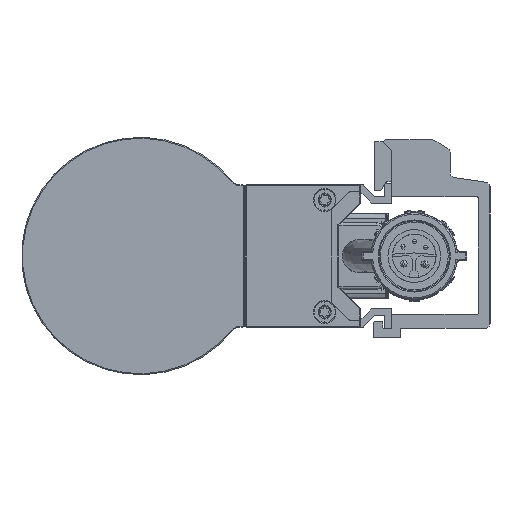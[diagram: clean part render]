
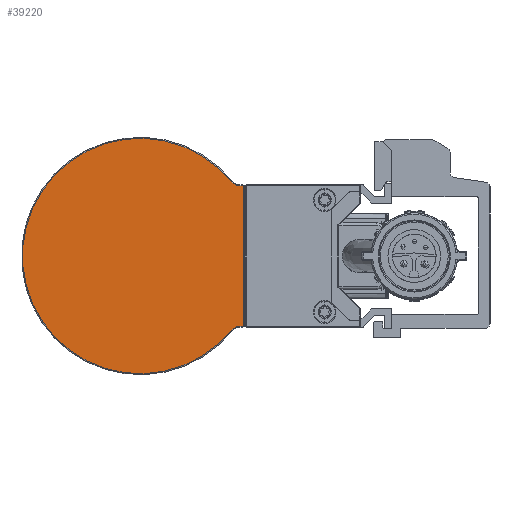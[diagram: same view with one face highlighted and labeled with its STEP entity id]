
A CAD part, left-side view. The second image highlights one B-rep face of the part: STEP entity #39220.
In plain terms, the highlighted planar face has unit normal (-1, 0, 0).
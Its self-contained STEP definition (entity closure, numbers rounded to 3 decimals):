
#111 = DIRECTION ( 'NONE',  ( 0., 0., -1. ) ) ;
#1398 = DIRECTION ( 'NONE',  ( -1., 0., 0. ) ) ;
#1769 = CARTESIAN_POINT ( 'NONE',  ( -750., 31.5, 14.8 ) ) ;
#2812 = CARTESIAN_POINT ( 'NONE',  ( -750., 32.025, -17. ) ) ;
#2957 = CARTESIAN_POINT ( 'NONE',  ( -750., 33.734, -15.615 ) ) ;
#4851 = DIRECTION ( 'NONE',  ( -1., 0., 0. ) ) ;
#5068 = EDGE_CURVE ( 'NONE', #25568, #34644, #31974, .T. ) ;
#7040 = DIRECTION ( 'NONE',  ( -1., 0., 0. ) ) ;
#8035 = DIRECTION ( 'NONE',  ( 0., 0., -1. ) ) ;
#8541 = EDGE_CURVE ( 'NONE', #43793, #35649, #58381, .T. ) ;
#8965 = EDGE_CURVE ( 'NONE', #47198, #39544, #31147, .T. ) ;
#9900 = LINE ( 'NONE', #40134, #24181 ) ;
#11091 = EDGE_CURVE ( 'NONE', #52333, #25568, #56469, .T. ) ;
#11676 = ORIENTED_EDGE ( 'NONE', *, *, #57275, .T. ) ;
#16390 = ORIENTED_EDGE ( 'NONE', *, *, #11091, .T. ) ;
#19311 = EDGE_LOOP ( 'NONE', ( #40499, #11676, #16390, #31812, #59562, #53389, #23590, #28575 ) ) ;
#21056 = EDGE_CURVE ( 'NONE', #34644, #47198, #61296, .T. ) ;
#21239 = CARTESIAN_POINT ( 'NONE',  ( -750., 31.2, 14.5 ) ) ;
#23590 = ORIENTED_EDGE ( 'NONE', *, *, #57099, .T. ) ;
#24137 = CIRCLE ( 'NONE', #43060, 24.8 ) ;
#24181 = VECTOR ( 'NONE', #29960, 1000. ) ;
#25568 = VERTEX_POINT ( 'NONE', #21239 ) ;
#27297 = CIRCLE ( 'NONE', #64063, 0.3 ) ;
#27338 = PLANE ( 'NONE',  #36483 ) ;
#28575 = ORIENTED_EDGE ( 'NONE', *, *, #8541, .T. ) ;
#29960 = DIRECTION ( 'NONE',  ( 0., -1., 0. ) ) ;
#31147 = CIRCLE ( 'NONE', #36314, 2.2 ) ;
#31636 = DIRECTION ( 'NONE',  ( 0., 0., 1. ) ) ;
#31812 = ORIENTED_EDGE ( 'NONE', *, *, #5068, .T. ) ;
#31974 = CIRCLE ( 'NONE', #40372, 0.3 ) ;
#32329 = CARTESIAN_POINT ( 'NONE',  ( -750., 31.5, 14.8 ) ) ;
#33072 = VERTEX_POINT ( 'NONE', #48768 ) ;
#34644 = VERTEX_POINT ( 'NONE', #32329 ) ;
#35649 = VERTEX_POINT ( 'NONE', #48050 ) ;
#36268 = DIRECTION ( 'NONE',  ( 0., -1., 0. ) ) ;
#36314 = AXIS2_PLACEMENT_3D ( 'NONE', #42238, #52769, #8035 ) ;
#36483 = AXIS2_PLACEMENT_3D ( 'NONE', #47419, #1398, #31636 ) ;
#36979 = CARTESIAN_POINT ( 'NONE',  ( -750., 31.2, -14.5 ) ) ;
#37139 = CARTESIAN_POINT ( 'NONE',  ( -750., 31.2, -14.5 ) ) ;
#38015 = CARTESIAN_POINT ( 'NONE',  ( -750., 33.734, 15.614 ) ) ;
#39220 = ADVANCED_FACE ( 'NONE', ( #46442 ), #27338, .T. ) ;
#39544 = VERTEX_POINT ( 'NONE', #38015 ) ;
#40134 = CARTESIAN_POINT ( 'NONE',  ( -750., 32.025, -14.8 ) ) ;
#40372 = AXIS2_PLACEMENT_3D ( 'NONE', #46506, #7040, #36268 ) ;
#40499 = ORIENTED_EDGE ( 'NONE', *, *, #58235, .T. ) ;
#40563 = DIRECTION ( 'NONE',  ( 0., 1., 0. ) ) ;
#42238 = CARTESIAN_POINT ( 'NONE',  ( -750., 32.025, 17. ) ) ;
#42787 = CARTESIAN_POINT ( 'NONE',  ( -750., 32.025, 14.8 ) ) ;
#43060 = AXIS2_PLACEMENT_3D ( 'NONE', #55500, #4851, #55155 ) ;
#43384 = VECTOR ( 'NONE', #57102, 1000. ) ;
#43793 = VERTEX_POINT ( 'NONE', #2957 ) ;
#45488 = DIRECTION ( 'NONE',  ( -1., 0., 0. ) ) ;
#46442 = FACE_OUTER_BOUND ( 'NONE', #19311, .T. ) ;
#46506 = CARTESIAN_POINT ( 'NONE',  ( -750., 31.5, 14.5 ) ) ;
#47198 = VERTEX_POINT ( 'NONE', #42787 ) ;
#47419 = CARTESIAN_POINT ( 'NONE',  ( -750., 53.001, 0. ) ) ;
#47522 = DIRECTION ( 'NONE',  ( 0., 0.777, 0.63 ) ) ;
#47859 = AXIS2_PLACEMENT_3D ( 'NONE', #2812, #53090, #47522 ) ;
#48050 = CARTESIAN_POINT ( 'NONE',  ( -750., 32.025, -14.8 ) ) ;
#48768 = CARTESIAN_POINT ( 'NONE',  ( -750., 31.5, -14.8 ) ) ;
#52333 = VERTEX_POINT ( 'NONE', #37139 ) ;
#52769 = DIRECTION ( 'NONE',  ( 1., 0., 0. ) ) ;
#53090 = DIRECTION ( 'NONE',  ( 1., 0., 0. ) ) ;
#53389 = ORIENTED_EDGE ( 'NONE', *, *, #8965, .T. ) ;
#55155 = DIRECTION ( 'NONE',  ( 0., -0.777, 0.63 ) ) ;
#55500 = CARTESIAN_POINT ( 'NONE',  ( -750., 53.001, 0. ) ) ;
#56469 = LINE ( 'NONE', #36979, #43384 ) ;
#57099 = EDGE_CURVE ( 'NONE', #39544, #43793, #24137, .T. ) ;
#57102 = DIRECTION ( 'NONE',  ( 0., 0., 1. ) ) ;
#57275 = EDGE_CURVE ( 'NONE', #33072, #52333, #27297, .T. ) ;
#58235 = EDGE_CURVE ( 'NONE', #35649, #33072, #9900, .T. ) ;
#58381 = CIRCLE ( 'NONE', #47859, 2.2 ) ;
#59273 = VECTOR ( 'NONE', #40563, 1000. ) ;
#59562 = ORIENTED_EDGE ( 'NONE', *, *, #21056, .T. ) ;
#61296 = LINE ( 'NONE', #1769, #59273 ) ;
#64063 = AXIS2_PLACEMENT_3D ( 'NONE', #64888, #45488, #111 ) ;
#64888 = CARTESIAN_POINT ( 'NONE',  ( -750., 31.5, -14.5 ) ) ;
